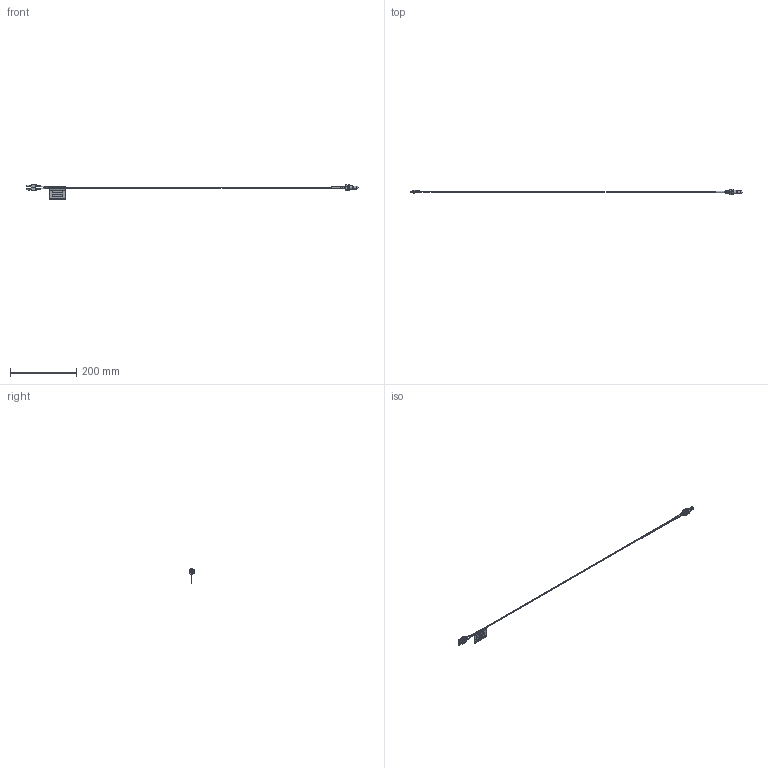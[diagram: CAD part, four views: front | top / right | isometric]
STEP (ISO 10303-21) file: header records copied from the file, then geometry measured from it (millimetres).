
FILE_DESCRIPTION(('STEP AP214'), '1');
FILE_NAME('ﾒﾐﾁﾍ.203729.001 - ﾂﾎﾄ-ﾒ', '', ('UNSPECIFIED'), ('UNSPECIFIED'), 'C3D Converter', 'C3D Toolkit', '');
FILE_SCHEMA(('AUTOMOTIVE_DESIGN { 1 0 10303 214 3 1 1}'));
Length unit declared in the file: millimetre
Products named in the file (11): ТРБН.203729.001; ТРБН.714321.001; ТРБН.715551.001; ТРБН.755752.001; ТРБН.754421.002
Assembly tree (11 placements, depth 2):
  ТРБН.203729.001
    ТРБН.714321.001
    ТРБН.715551.001
    (unnamed)
    (unnamed)
    ТРБН.755752.001
    (unnamed)
    (unnamed)
    (unnamed)  x2
    ТРБН.754421.002
    (unnamed)
Bounding box: 1004.55 x 16 x 45.9 mm (x, y, z)
Volume: 12690.2 mm3; surface area: 33847.5 mm2
Topology: 13 solids, 13 shells, 1202 faces, 3280 edges, 2166 vertices
Faces by surface type: plane 604, extrusion 480, cylinder 81, cone 24, sphere 5, bspline 4, torus 4
Full cylindrical faces by diameter (mm): 0.405 x8, 1 x6, 2.2 x2, 3.81 x6, 5 x1, 5.46 x2, 6 x2, 8.9 x1, 8.917 x2, 10 x1
Entity records: 54381 total; most frequent: CARTESIAN_POINT 16446, ORIENTED_EDGE 6412, DIRECTION 4371, EDGE_CURVE 3206, VECTOR 2485, VERTEX_POINT 2160, LINE 2005, B_SPLINE_CURVE_WITH_KNOTS 1465
